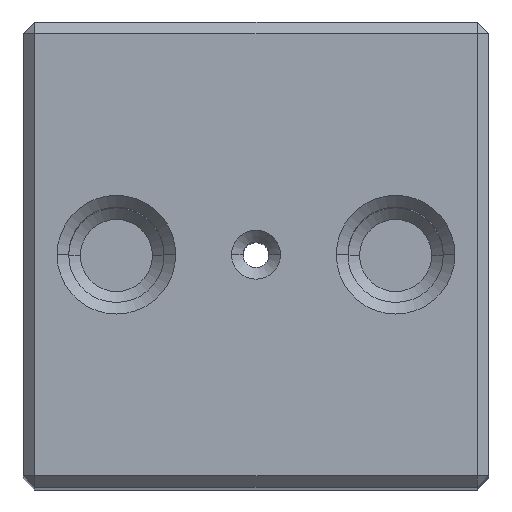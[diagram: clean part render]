
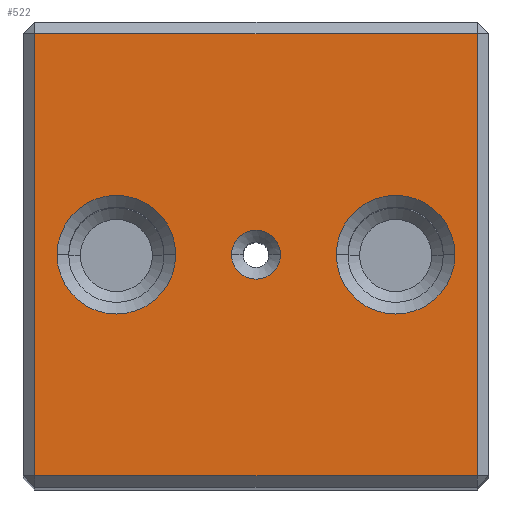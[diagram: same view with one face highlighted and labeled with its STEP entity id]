
A CAD part, top view. The second image highlights one B-rep face of the part: STEP entity #522.
In plain terms, the highlighted planar face has unit normal (0, 0, 1).
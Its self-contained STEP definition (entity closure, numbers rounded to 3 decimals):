
#6 = ORIENTED_EDGE ( 'NONE', *, *, #259, .T. ) ;
#10 = ORIENTED_EDGE ( 'NONE', *, *, #587, .T. ) ;
#15 = CIRCLE ( 'NONE', #1042, 2.55 ) ;
#32 = LINE ( 'NONE', #262, #1054 ) ;
#35 = CARTESIAN_POINT ( 'NONE',  ( -6., 0., 0. ) ) ;
#41 = DIRECTION ( 'NONE',  ( 1., 0., 0. ) ) ;
#78 = VERTEX_POINT ( 'NONE', #285 ) ;
#121 = FACE_OUTER_BOUND ( 'NONE', #1183, .T. ) ;
#126 = DIRECTION ( 'NONE',  ( 0., 0., -1. ) ) ;
#135 = CARTESIAN_POINT ( 'NONE',  ( 6., 0., 0. ) ) ;
#143 = ORIENTED_EDGE ( 'NONE', *, *, #453, .T. ) ;
#144 = DIRECTION ( 'NONE',  ( 0., 0., -1. ) ) ;
#151 = ORIENTED_EDGE ( 'NONE', *, *, #526, .T. ) ;
#186 = CARTESIAN_POINT ( 'NONE',  ( 1.05, 0., 0. ) ) ;
#208 = CARTESIAN_POINT ( 'NONE',  ( 9.5, 9.5, 0. ) ) ;
#235 = VERTEX_POINT ( 'NONE', #641 ) ;
#259 = EDGE_CURVE ( 'NONE', #780, #331, #15, .T. ) ;
#262 = CARTESIAN_POINT ( 'NONE',  ( 0., 9.5, 0. ) ) ;
#269 = LINE ( 'NONE', #488, #850 ) ;
#274 = DIRECTION ( 'NONE',  ( 0., 1., 0. ) ) ;
#283 = EDGE_CURVE ( 'NONE', #557, #1107, #32, .T. ) ;
#285 = CARTESIAN_POINT ( 'NONE',  ( 9.5, -9.5, 0. ) ) ;
#286 = DIRECTION ( 'NONE',  ( 0., 0., -1. ) ) ;
#320 = VECTOR ( 'NONE', #506, 1000. ) ;
#331 = VERTEX_POINT ( 'NONE', #361 ) ;
#343 = CARTESIAN_POINT ( 'NONE',  ( -6., 0., 0. ) ) ;
#361 = CARTESIAN_POINT ( 'NONE',  ( -3.45, 0., 0. ) ) ;
#379 = VERTEX_POINT ( 'NONE', #870 ) ;
#397 = CARTESIAN_POINT ( 'NONE',  ( 0., -9.5, 0. ) ) ;
#416 = FACE_BOUND ( 'NONE', #783, .T. ) ;
#424 = CARTESIAN_POINT ( 'NONE',  ( 0., 0., 0. ) ) ;
#426 = EDGE_CURVE ( 'NONE', #1107, #235, #950, .T. ) ;
#444 = DIRECTION ( 'NONE',  ( 1., 0., 0. ) ) ;
#449 = FACE_BOUND ( 'NONE', #670, .T. ) ;
#453 = EDGE_CURVE ( 'NONE', #900, #379, #695, .T. ) ;
#474 = CIRCLE ( 'NONE', #1136, 2.55 ) ;
#477 = EDGE_CURVE ( 'NONE', #331, #780, #899, .T. ) ;
#488 = CARTESIAN_POINT ( 'NONE',  ( 9.5, 0., 0. ) ) ;
#506 = DIRECTION ( 'NONE',  ( 0., -1., 0. ) ) ;
#522 = ADVANCED_FACE ( 'NONE', ( #121, #449, #416, #1079 ), #813, .T. ) ;
#526 = EDGE_CURVE ( 'NONE', #379, #900, #1056, .T. ) ;
#527 = DIRECTION ( 'NONE',  ( 0., 0., -1. ) ) ;
#532 = CARTESIAN_POINT ( 'NONE',  ( 0., 0., 0. ) ) ;
#546 = EDGE_CURVE ( 'NONE', #1015, #1203, #1249, .T. ) ;
#552 = EDGE_LOOP ( 'NONE', ( #10, #1149 ) ) ;
#557 = VERTEX_POINT ( 'NONE', #208 ) ;
#587 = EDGE_CURVE ( 'NONE', #1203, #1015, #474, .T. ) ;
#605 = ORIENTED_EDGE ( 'NONE', *, *, #863, .T. ) ;
#619 = DIRECTION ( 'NONE',  ( 0., 0., -1. ) ) ;
#633 = CARTESIAN_POINT ( 'NONE',  ( -9.5, 9.5, 0. ) ) ;
#636 = DIRECTION ( 'NONE',  ( 1., 0., 0. ) ) ;
#641 = CARTESIAN_POINT ( 'NONE',  ( -9.5, -9.5, 0. ) ) ;
#670 = EDGE_LOOP ( 'NONE', ( #143, #151 ) ) ;
#676 = CARTESIAN_POINT ( 'NONE',  ( -8.55, 0., 0. ) ) ;
#695 = CIRCLE ( 'NONE', #1208, 1.05 ) ;
#700 = CARTESIAN_POINT ( 'NONE',  ( 3.45, 0., 0. ) ) ;
#710 = AXIS2_PLACEMENT_3D ( 'NONE', #532, #619, #717 ) ;
#717 = DIRECTION ( 'NONE',  ( 1., 0., 0. ) ) ;
#736 = CARTESIAN_POINT ( 'NONE',  ( 8.55, 0., 0. ) ) ;
#751 = DIRECTION ( 'NONE',  ( 1., 0., 0. ) ) ;
#780 = VERTEX_POINT ( 'NONE', #676 ) ;
#783 = EDGE_LOOP ( 'NONE', ( #1028, #6 ) ) ;
#808 = CARTESIAN_POINT ( 'NONE',  ( 0., 0., 0. ) ) ;
#813 = PLANE ( 'NONE',  #967 ) ;
#822 = VECTOR ( 'NONE', #1014, 1000. ) ;
#826 = DIRECTION ( 'NONE',  ( 1., 0., 0. ) ) ;
#846 = CARTESIAN_POINT ( 'NONE',  ( 6., 0., 0. ) ) ;
#850 = VECTOR ( 'NONE', #274, 1000. ) ;
#863 = EDGE_CURVE ( 'NONE', #78, #557, #269, .T. ) ;
#870 = CARTESIAN_POINT ( 'NONE',  ( -1.05, 0., 0. ) ) ;
#877 = ORIENTED_EDGE ( 'NONE', *, *, #426, .T. ) ;
#893 = CARTESIAN_POINT ( 'NONE',  ( -9.5, 0., 0. ) ) ;
#899 = CIRCLE ( 'NONE', #1119, 2.55 ) ;
#900 = VERTEX_POINT ( 'NONE', #186 ) ;
#946 = ORIENTED_EDGE ( 'NONE', *, *, #283, .T. ) ;
#950 = LINE ( 'NONE', #893, #320 ) ;
#954 = DIRECTION ( 'NONE',  ( 0., 0., -1. ) ) ;
#967 = AXIS2_PLACEMENT_3D ( 'NONE', #424, #1213, #41 ) ;
#977 = EDGE_CURVE ( 'NONE', #235, #78, #978, .T. ) ;
#978 = LINE ( 'NONE', #397, #822 ) ;
#998 = DIRECTION ( 'NONE',  ( 1., 0., 0. ) ) ;
#1014 = DIRECTION ( 'NONE',  ( 1., 0., 0. ) ) ;
#1015 = VERTEX_POINT ( 'NONE', #700 ) ;
#1028 = ORIENTED_EDGE ( 'NONE', *, *, #477, .T. ) ;
#1032 = ORIENTED_EDGE ( 'NONE', *, *, #977, .T. ) ;
#1042 = AXIS2_PLACEMENT_3D ( 'NONE', #343, #954, #751 ) ;
#1054 = VECTOR ( 'NONE', #1121, 1000. ) ;
#1056 = CIRCLE ( 'NONE', #710, 1.05 ) ;
#1079 = FACE_BOUND ( 'NONE', #552, .T. ) ;
#1107 = VERTEX_POINT ( 'NONE', #633 ) ;
#1119 = AXIS2_PLACEMENT_3D ( 'NONE', #35, #527, #636 ) ;
#1121 = DIRECTION ( 'NONE',  ( -1., 0., 0. ) ) ;
#1136 = AXIS2_PLACEMENT_3D ( 'NONE', #846, #144, #444 ) ;
#1149 = ORIENTED_EDGE ( 'NONE', *, *, #546, .T. ) ;
#1183 = EDGE_LOOP ( 'NONE', ( #605, #946, #877, #1032 ) ) ;
#1203 = VERTEX_POINT ( 'NONE', #736 ) ;
#1208 = AXIS2_PLACEMENT_3D ( 'NONE', #808, #286, #998 ) ;
#1213 = DIRECTION ( 'NONE',  ( 0., 0., 1. ) ) ;
#1227 = AXIS2_PLACEMENT_3D ( 'NONE', #135, #126, #826 ) ;
#1249 = CIRCLE ( 'NONE', #1227, 2.55 ) ;
